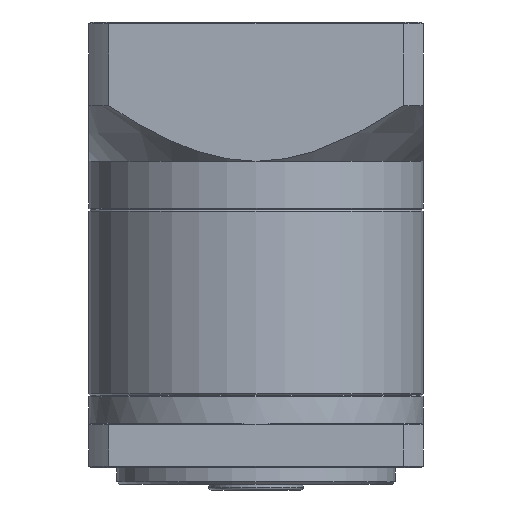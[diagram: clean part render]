
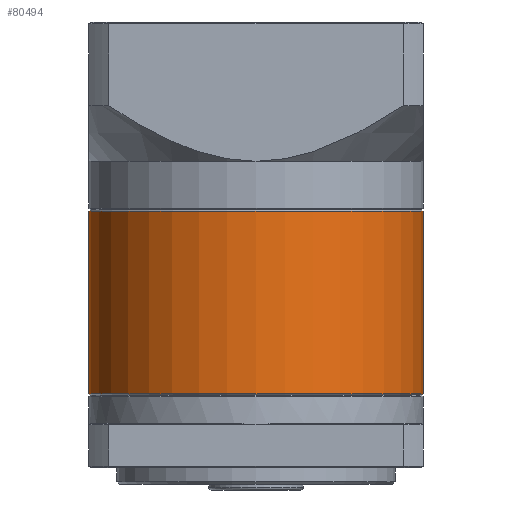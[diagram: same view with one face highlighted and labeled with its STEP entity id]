
A CAD part, front view. The second image highlights one B-rep face of the part: STEP entity #80494.
In plain terms, the highlighted cylindrical face has radius 30 mm (diameter 60 mm), a partial arc.
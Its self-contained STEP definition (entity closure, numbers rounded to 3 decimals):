
#279 = AXIS2_PLACEMENT_3D ( 'NONE', #68236, #26983, #75148 ) ;
#2317 = DIRECTION ( 'NONE',  ( 0., 0., -1. ) ) ;
#12737 = DIRECTION ( 'NONE',  ( 0., 0., 1. ) ) ;
#17477 = CARTESIAN_POINT ( 'NONE',  ( -68.108, 29.245, 3.439 ) ) ;
#26983 = DIRECTION ( 'NONE',  ( 0., 0., -1. ) ) ;
#29812 = CARTESIAN_POINT ( 'NONE',  ( -98.108, 29.245, -29.611 ) ) ;
#31347 = DIRECTION ( 'NONE',  ( 0., 0., -1. ) ) ;
#40234 = AXIS2_PLACEMENT_3D ( 'NONE', #17477, #31347, #59064 ) ;
#42116 = EDGE_CURVE ( 'NONE', #59788, #50574, #53297, .T. ) ;
#42506 = EDGE_CURVE ( 'NONE', #73393, #51194, #67316, .T. ) ;
#43531 = CARTESIAN_POINT ( 'NONE',  ( -38.108, 29.245, 3.439 ) ) ;
#46228 = AXIS2_PLACEMENT_3D ( 'NONE', #53976, #12737, #60933 ) ;
#50574 = VERTEX_POINT ( 'NONE', #29812 ) ;
#50954 = EDGE_CURVE ( 'NONE', #73393, #59788, #55458, .T. ) ;
#51162 = VECTOR ( 'NONE', #72000, 1000. ) ;
#51194 = VERTEX_POINT ( 'NONE', #79003 ) ;
#52974 = ORIENTED_EDGE ( 'NONE', *, *, #42506, .F. ) ;
#53297 = LINE ( 'NONE', #72312, #51162 ) ;
#53976 = CARTESIAN_POINT ( 'NONE',  ( -68.108, 29.245, -29.611 ) ) ;
#54712 = ORIENTED_EDGE ( 'NONE', *, *, #42116, .T. ) ;
#55458 = CIRCLE ( 'NONE', #279, 30. ) ;
#59064 = DIRECTION ( 'NONE',  ( -1., 0., 0. ) ) ;
#59788 = VERTEX_POINT ( 'NONE', #88822 ) ;
#60933 = DIRECTION ( 'NONE',  ( 1., 0., 0. ) ) ;
#64802 = CYLINDRICAL_SURFACE ( 'NONE', #40234, 30. ) ;
#65464 = EDGE_LOOP ( 'NONE', ( #52974, #76994, #54712, #86239 ) ) ;
#67316 = LINE ( 'NONE', #43531, #83454 ) ;
#68236 = CARTESIAN_POINT ( 'NONE',  ( -68.108, 29.245, 3.189 ) ) ;
#72000 = DIRECTION ( 'NONE',  ( 0., 0., -1. ) ) ;
#72312 = CARTESIAN_POINT ( 'NONE',  ( -98.108, 29.245, 3.439 ) ) ;
#73393 = VERTEX_POINT ( 'NONE', #83271 ) ;
#73426 = FACE_OUTER_BOUND ( 'NONE', #65464, .T. ) ;
#75148 = DIRECTION ( 'NONE',  ( 1., 0., 0. ) ) ;
#75235 = EDGE_CURVE ( 'NONE', #50574, #51194, #79876, .T. ) ;
#76994 = ORIENTED_EDGE ( 'NONE', *, *, #50954, .T. ) ;
#79003 = CARTESIAN_POINT ( 'NONE',  ( -38.108, 29.245, -29.611 ) ) ;
#79876 = CIRCLE ( 'NONE', #46228, 30. ) ;
#80494 = ADVANCED_FACE ( 'NONE', ( #73426 ), #64802, .T. ) ;
#83271 = CARTESIAN_POINT ( 'NONE',  ( -38.108, 29.245, 3.189 ) ) ;
#83454 = VECTOR ( 'NONE', #2317, 1000. ) ;
#86239 = ORIENTED_EDGE ( 'NONE', *, *, #75235, .T. ) ;
#88822 = CARTESIAN_POINT ( 'NONE',  ( -98.108, 29.245, 3.189 ) ) ;
